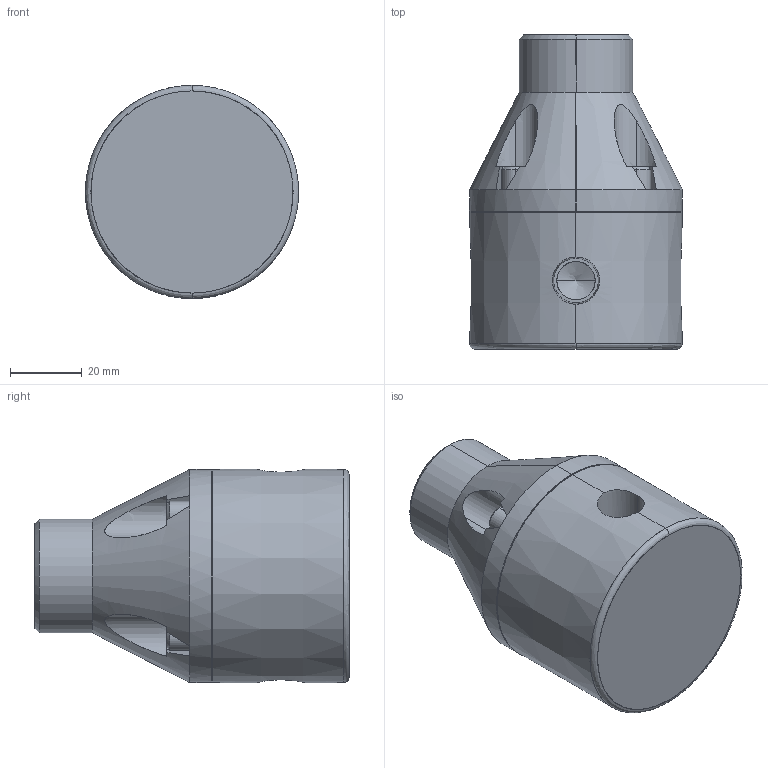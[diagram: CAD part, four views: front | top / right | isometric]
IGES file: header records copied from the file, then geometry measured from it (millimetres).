
Start section: SolidWorks IGES file using analytic representation for surfaces
Global section: file name: F:\Griffco-Valve\Griffco_current-projects\GV_web-files_2015\M Series\MBP0250-BSPT.IGS; native system: SolidWorks 2008; preprocessor: SolidWorks 2008; author: Dan; date: 150407.210404; units: inch
Bounding box: 59.44 x 87.63 x 59.44 mm (x, y, z)
Surface area: 24200 mm2 (no closed solid volume)
Topology: 0 solids, 0 shells, 126 faces, 1868 edges, 1864 vertices
Faces by surface type: bspline 72, revolution 54
